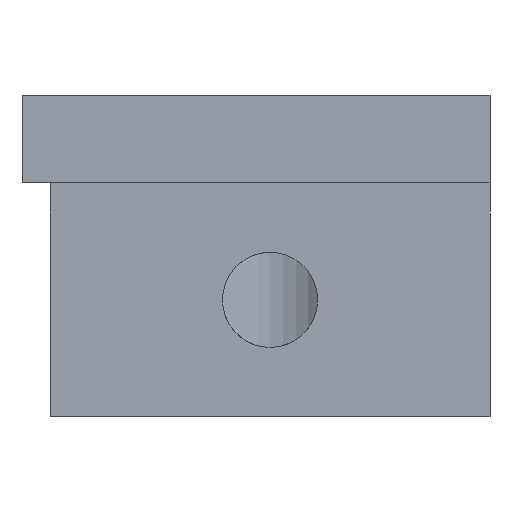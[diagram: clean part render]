
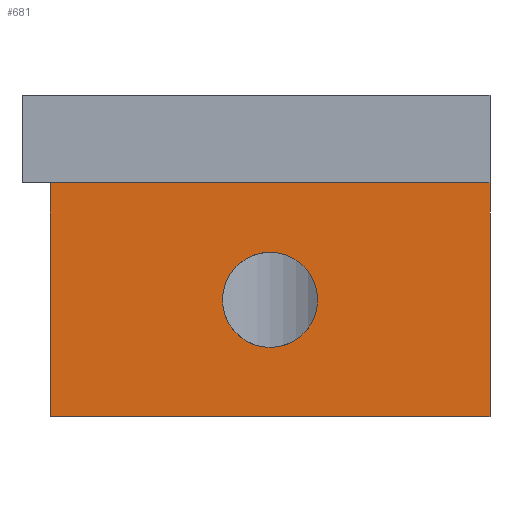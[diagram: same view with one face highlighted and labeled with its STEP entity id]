
A CAD part, front view. The second image highlights one B-rep face of the part: STEP entity #681.
In plain terms, the highlighted planar face has unit normal (0, -1, 0).
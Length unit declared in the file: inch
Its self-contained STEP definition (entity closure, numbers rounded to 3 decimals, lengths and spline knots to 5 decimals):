
#18 = CARTESIAN_POINT ( 'NONE',  ( 0.53, -3.185, -0.35155 ) ) ;
#27 = EDGE_CURVE ( 'NONE', #418, #189, #288, .T. ) ;
#41 = CARTESIAN_POINT ( 'NONE',  ( 0.06, -3.185, 0. ) ) ;
#44 = VERTEX_POINT ( 'NONE', #18 ) ;
#50 = DIRECTION ( 'NONE',  ( 0., -1., 0. ) ) ;
#52 = CARTESIAN_POINT ( 'NONE',  ( 1., -3.185, 0. ) ) ;
#60 = VECTOR ( 'NONE', #595, 39.37008 ) ;
#64 = ORIENTED_EDGE ( 'NONE', *, *, #384, .T. ) ;
#85 = DIRECTION ( 'NONE',  ( 0., 0., -1. ) ) ;
#87 = VERTEX_POINT ( 'NONE', #41 ) ;
#92 = CARTESIAN_POINT ( 'NONE',  ( 1., -3.185, -0.5 ) ) ;
#93 = ORIENTED_EDGE ( 'NONE', *, *, #271, .F. ) ;
#144 = ORIENTED_EDGE ( 'NONE', *, *, #349, .F. ) ;
#160 = LINE ( 'NONE', #864, #767 ) ;
#167 = DIRECTION ( 'NONE',  ( 0., 0., 1. ) ) ;
#178 = VECTOR ( 'NONE', #167, 39.37008 ) ;
#188 = DIRECTION ( 'NONE',  ( 0., 0., 1. ) ) ;
#189 = VERTEX_POINT ( 'NONE', #52 ) ;
#271 = EDGE_CURVE ( 'NONE', #397, #44, #652, .T. ) ;
#277 = CARTESIAN_POINT ( 'NONE',  ( 0.53, -3.185, -0.25 ) ) ;
#288 = LINE ( 'NONE', #92, #178 ) ;
#301 = FACE_BOUND ( 'NONE', #447, .T. ) ;
#323 = VERTEX_POINT ( 'NONE', #406 ) ;
#349 = EDGE_CURVE ( 'NONE', #44, #397, #489, .T. ) ;
#362 = VECTOR ( 'NONE', #825, 39.37008 ) ;
#380 = DIRECTION ( 'NONE',  ( 0., 0., 1. ) ) ;
#384 = EDGE_CURVE ( 'NONE', #189, #87, #840, .T. ) ;
#390 = DIRECTION ( 'NONE',  ( 0., 1., 0. ) ) ;
#397 = VERTEX_POINT ( 'NONE', #766 ) ;
#406 = CARTESIAN_POINT ( 'NONE',  ( 0.06, -3.185, -0.5 ) ) ;
#407 = EDGE_CURVE ( 'NONE', #418, #323, #707, .T. ) ;
#418 = VERTEX_POINT ( 'NONE', #811 ) ;
#439 = PLANE ( 'NONE',  #596 ) ;
#447 = EDGE_LOOP ( 'NONE', ( #144, #93 ) ) ;
#489 = CIRCLE ( 'NONE', #822, 0.10155 ) ;
#559 = EDGE_CURVE ( 'NONE', #323, #87, #160, .T. ) ;
#566 = CARTESIAN_POINT ( 'NONE',  ( 0.06, -3.185, -0.5 ) ) ;
#579 = ORIENTED_EDGE ( 'NONE', *, *, #559, .F. ) ;
#585 = EDGE_LOOP ( 'NONE', ( #64, #579, #846, #711 ) ) ;
#595 = DIRECTION ( 'NONE',  ( -1., 0., 0. ) ) ;
#596 = AXIS2_PLACEMENT_3D ( 'NONE', #566, #390, #380 ) ;
#607 = CARTESIAN_POINT ( 'NONE',  ( 0.06, -3.185, 0. ) ) ;
#623 = FACE_OUTER_BOUND ( 'NONE', #585, .T. ) ;
#652 = CIRCLE ( 'NONE', #740, 0.10155 ) ;
#681 = ADVANCED_FACE ( 'NONE', ( #301, #623 ), #439, .F. ) ;
#692 = CARTESIAN_POINT ( 'NONE',  ( 0.53, -3.185, -0.25 ) ) ;
#699 = DIRECTION ( 'NONE',  ( 0., -1., 0. ) ) ;
#707 = LINE ( 'NONE', #860, #60 ) ;
#711 = ORIENTED_EDGE ( 'NONE', *, *, #27, .T. ) ;
#739 = DIRECTION ( 'NONE',  ( 0., 0., -1. ) ) ;
#740 = AXIS2_PLACEMENT_3D ( 'NONE', #277, #50, #85 ) ;
#766 = CARTESIAN_POINT ( 'NONE',  ( 0.53, -3.185, -0.14845 ) ) ;
#767 = VECTOR ( 'NONE', #188, 39.37008 ) ;
#811 = CARTESIAN_POINT ( 'NONE',  ( 1., -3.185, -0.5 ) ) ;
#822 = AXIS2_PLACEMENT_3D ( 'NONE', #692, #699, #739 ) ;
#825 = DIRECTION ( 'NONE',  ( -1., 0., 0. ) ) ;
#840 = LINE ( 'NONE', #607, #362 ) ;
#846 = ORIENTED_EDGE ( 'NONE', *, *, #407, .F. ) ;
#860 = CARTESIAN_POINT ( 'NONE',  ( 0.06, -3.185, -0.5 ) ) ;
#864 = CARTESIAN_POINT ( 'NONE',  ( 0.06, -3.185, -0.5 ) ) ;
